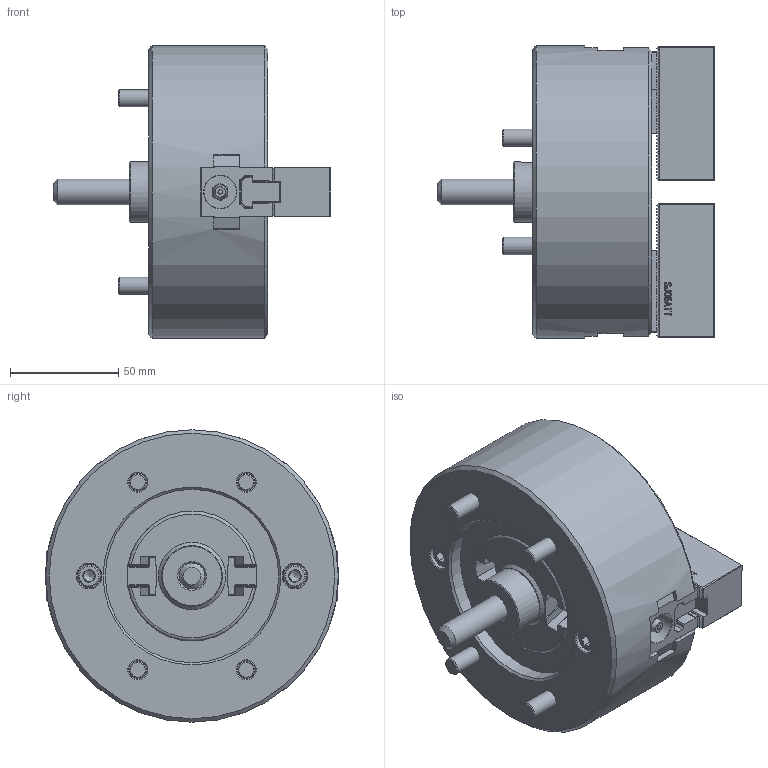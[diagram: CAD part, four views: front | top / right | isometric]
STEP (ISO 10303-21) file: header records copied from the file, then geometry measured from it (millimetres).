
FILE_DESCRIPTION (( 'STEP AP214' ), '1' );
FILE_NAME ('DT1_NT05_OUTSIDE_VIEW_OC.STEP', '2024-05-14T00:57:19', ( '' ), ( '' ), 'SwSTEP 2.0', 'SolidWorks 2022', '' );
FILE_SCHEMA (( 'AUTOMOTIVE_DESIGN' ));
Length unit declared in the file: millimetre
Products named in the file (10): DT1_NT05_SOFTJAW^DT1_NT05_ﾃﾞﾌｫﾙﾄ; DT1_NT05_M4x8^DT1_NT05_ﾃﾞﾌｫﾙﾄ; DT1_NT05_M8x60^DT1_NT05_ﾃﾞﾌｫﾙﾄ; DT1_NT05_DRAWSCREW^DT1_NT05_ﾃﾞﾌｫﾙﾄ; DT1_NT05_TNUT^DT1_NT05_ﾃﾞﾌｫﾙﾄ; DT1_NT05_COVER^DT1_NT05_ﾃﾞﾌｫﾙﾄ; DT1_NT05_OUTSIDE_VIEW_OC; DT1_NT05_BASE^DT1_NT05_ﾃﾞﾌｫﾙﾄ; DT1_NT05_DN^DT1_NT05_ﾃﾞﾌｫﾙﾄ; DT1_NT05_M8x22^DT1_NT05_ﾃﾞﾌｫﾙﾄ
Assembly tree (20 placements, depth 2):
  DT1_NT05_OUTSIDE_VIEW_OC
    DT1_NT05_SOFTJAW^DT1_NT05_ﾃﾞﾌｫﾙﾄ  x2
    DT1_NT05_TNUT^DT1_NT05_ﾃﾞﾌｫﾙﾄ  x2
    DT1_NT05_COVER^DT1_NT05_ﾃﾞﾌｫﾙﾄ
    DT1_NT05_DRAWSCREW^DT1_NT05_ﾃﾞﾌｫﾙﾄ
    DT1_NT05_DN^DT1_NT05_ﾃﾞﾌｫﾙﾄ
    DT1_NT05_BASE^DT1_NT05_ﾃﾞﾌｫﾙﾄ
    DT1_NT05_M8x22^DT1_NT05_ﾃﾞﾌｫﾙﾄ  x4
    DT1_NT05_M8x60^DT1_NT05_ﾃﾞﾌｫﾙﾄ  x4
    DT1_NT05_M4x8^DT1_NT05_ﾃﾞﾌｫﾙﾄ  x4
Bounding box: 128 x 135 x 135 mm (x, y, z)
Volume: 811214.8 mm3; surface area: 131766.2 mm2
Topology: 20 solids, 20 shells, 2744 faces, 7718 edges, 5074 vertices
Faces by surface type: plane 1924, cylinder 453, bspline 216, cone 128, torus 21, sphere 2
Full cylindrical faces by diameter (mm): 2 x2, 3.3 x4, 3.571 x4, 4 x4, 6.99 x4, 8 x12, 8.3 x4, 8.5 x8, 10.22 x2, 10.5 x1, 11 x2, 12 x2, 13.27 x8, 13.5 x4, 14 x4, 15 x2, 17.5 x1, 18 x1, 28 x1, 60 x1, 80 x1, 135 x1
Entity records: 73428 total; most frequent: CARTESIAN_POINT 22147, ORIENTED_EDGE 11370, DIRECTION 9115, EDGE_CURVE 5685, LINE 4367, VECTOR 4367, VERTEX_POINT 3804, AXIS2_PLACEMENT_3D 2374
